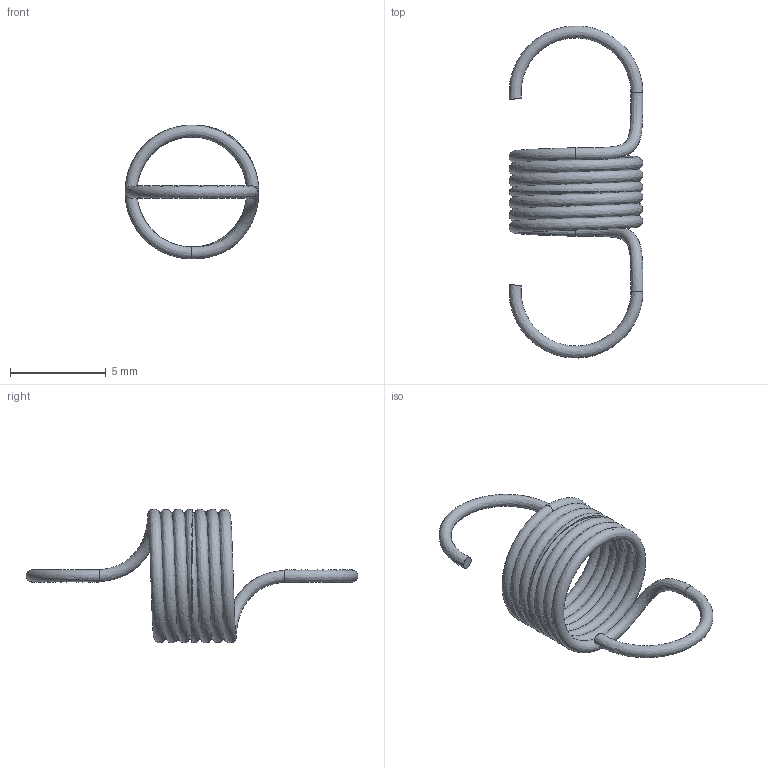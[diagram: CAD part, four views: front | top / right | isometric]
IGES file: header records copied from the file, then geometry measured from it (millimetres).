
Global section: file name: T10420; native system: Autodesk Inventor 2026; preprocessor: unknown; author: J. Iwanek; date: 20261005.094821; units: millimetre
Bounding box: 7 x 17.35 x 7 mm (x, y, z)
Volume: 50.3 mm3; surface area: 320.9 mm2
Topology: 1 solids, 1 shells, 10 faces, 32 edges, 20 vertices
Faces by surface type: bspline 10
